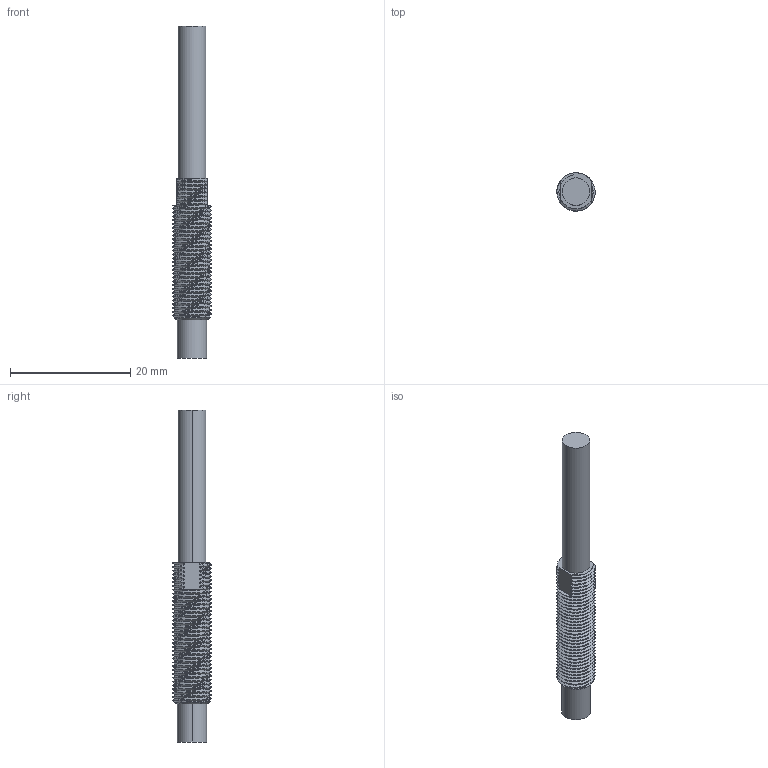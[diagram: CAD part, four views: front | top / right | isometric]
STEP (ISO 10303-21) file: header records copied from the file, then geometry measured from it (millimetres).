
FILE_DESCRIPTION (( 'STEP AP203' ), '1' );
FILE_NAME ('1SU.STEP', '2010-03-05T18:47:19', ( 'tom edwards' ), ( 'Tom J. Edwards' ), 'SwSTEP 2.0', 'SolidWorks 2008', '' );
FILE_SCHEMA (( 'CONFIG_CONTROL_DESIGN' ));
Length unit declared in the file: inch
Products named in the file (1): 1SU
Bounding box: 6.35 x 6.35 x 55.12 mm (x, y, z)
Volume: 1179.3 mm3; surface area: 1204.7 mm2
Topology: 1 solids, 1 shells, 132 faces, 384 edges, 256 vertices
Faces by surface type: cylinder 77, bspline 45, plane 8, cone 2
Entity records: 59879 total; most frequent: CARTESIAN_POINT 57226, ORIENTED_EDGE 768, EDGE_CURVE 384, DIRECTION 298, VERTEX_POINT 256, EDGE_LOOP 134, ADVANCED_FACE 132, FACE_OUTER_BOUND 132
